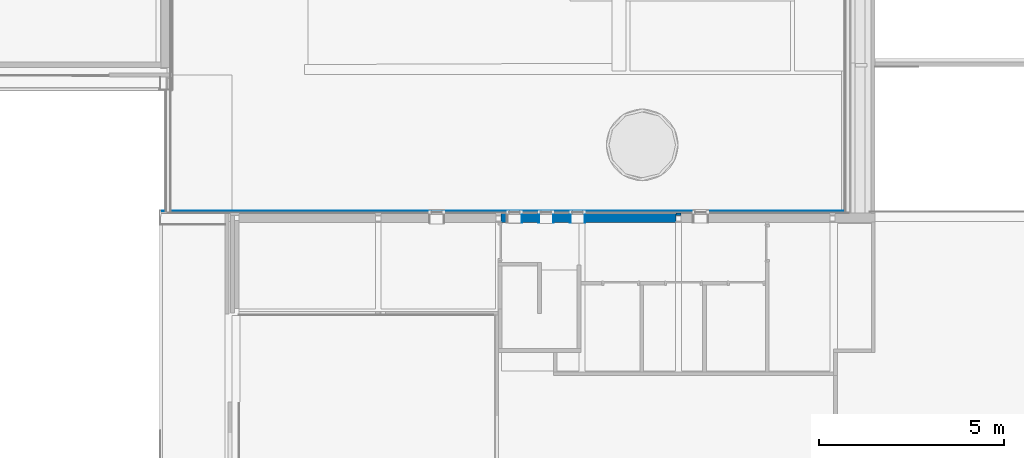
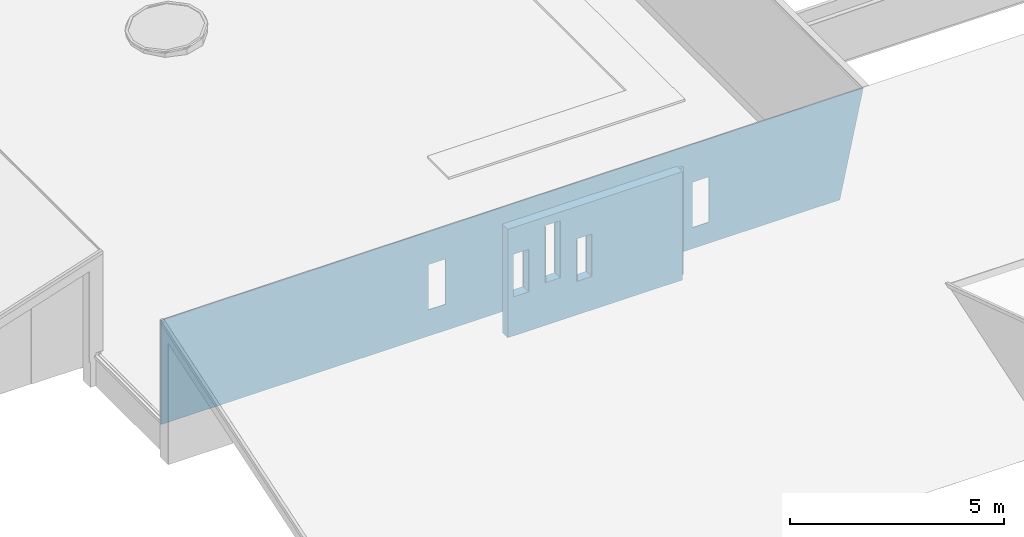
# One storey, part 21 of 66: 8 walls, 8 openings.
"""IFC2X3 building model written with IfcOpenShell, lengths in millimetres."""

from ifc_helpers import new_model, entity, si_unit, converted_unit, derived_unit, direction, frame, frame_2d, origin, place, context, subcontext, project, spatial, rectangle, extrude, clip, halfspace, material, layer, layer_set, layer_usage, type_object, element, save


model = new_model("IFC2X3")

# Units and contexts
model_context = context("Model", 3, precision=0.01, world=origin(), true_north=direction((6.12303176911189e-17, 1.0)))
body_context = subcontext(model_context, "Body", "Model", "MODEL_VIEW")
ifc_project = project(units=[si_unit("LENGTHUNIT", "METRE", prefix="MILLI"), si_unit("AREAUNIT", "SQUARE_METRE"), si_unit("VOLUMEUNIT", "CUBIC_METRE"), converted_unit("PLANEANGLEUNIT", "DEGREE", entity("IfcRatioMeasure", 0.0174532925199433), si_unit("PLANEANGLEUNIT", "RADIAN"), dimensions=[0, 0, 0, 0, 0, 0, 0]), si_unit("MASSUNIT", "GRAM", prefix="KILO"), derived_unit("MASSDENSITYUNIT", [(si_unit("MASSUNIT", "GRAM", prefix="KILO"), 1), (si_unit("LENGTHUNIT", "METRE"), -3)]), derived_unit("MOMENTOFINERTIAUNIT", [(si_unit("LENGTHUNIT", "METRE"), 4)]), si_unit("TIMEUNIT", "SECOND"), si_unit("FREQUENCYUNIT", "HERTZ"), si_unit("THERMODYNAMICTEMPERATUREUNIT", "DEGREE_CELSIUS"), derived_unit("THERMALTRANSMITTANCEUNIT", [(si_unit("MASSUNIT", "GRAM", prefix="KILO"), 1), (si_unit("THERMODYNAMICTEMPERATUREUNIT", "KELVIN"), -1), (si_unit("TIMEUNIT", "SECOND"), -3)]), derived_unit("VOLUMETRICFLOWRATEUNIT", [(si_unit("LENGTHUNIT", "METRE"), 3), (si_unit("TIMEUNIT", "SECOND"), -1)]), si_unit("ELECTRICCURRENTUNIT", "AMPERE"), si_unit("ELECTRICVOLTAGEUNIT", "VOLT"), si_unit("POWERUNIT", "WATT"), si_unit("FORCEUNIT", "NEWTON", prefix="KILO"), si_unit("ILLUMINANCEUNIT", "LUX"), si_unit("LUMINOUSFLUXUNIT", "LUMEN"), si_unit("LUMINOUSINTENSITYUNIT", "CANDELA"), derived_unit("USERDEFINED", [(si_unit("MASSUNIT", "GRAM", prefix="KILO"), -1), (si_unit("LENGTHUNIT", "METRE"), -2), (si_unit("TIMEUNIT", "SECOND"), 3), (si_unit("LUMINOUSFLUXUNIT", "LUMEN"), 1)]), derived_unit("LINEARVELOCITYUNIT", [(si_unit("LENGTHUNIT", "METRE"), 1), (si_unit("TIMEUNIT", "SECOND"), -1)]), si_unit("PRESSUREUNIT", "PASCAL"), derived_unit("USERDEFINED", [(si_unit("LENGTHUNIT", "METRE"), -2), (si_unit("MASSUNIT", "GRAM", prefix="KILO"), 1), (si_unit("TIMEUNIT", "SECOND"), -2)]), derived_unit("LINEARFORCEUNIT", [(si_unit("MASSUNIT", "GRAM", prefix="KILO"), 1), (si_unit("LENGTHUNIT", "METRE"), 1), (si_unit("TIMEUNIT", "SECOND"), -2), (si_unit("LENGTHUNIT", "METRE"), -1)]), derived_unit("PLANARFORCEUNIT", [(si_unit("MASSUNIT", "GRAM", prefix="KILO"), 1), (si_unit("LENGTHUNIT", "METRE"), 1), (si_unit("TIMEUNIT", "SECOND"), -2), (si_unit("LENGTHUNIT", "METRE"), -2)])], contexts=[model_context])

# Site, building, storey
site_placement = place(None, origin())
site = spatial("IfcSite", under=ifc_project, at=site_placement, Name="Default", CompositionType="ELEMENT")
building_placement = place(site_placement, origin())
building = spatial("IfcBuilding", under=site, at=building_placement, Name="-", CompositionType="ELEMENT")
storey_placement = place(building_placement, frame((0.0, 0.0, 3070.0)))
storey = spatial("IfcBuildingStorey", under=building, at=storey_placement, Name="01 eerste verdieping", CompositionType="ELEMENT", Elevation=3070.00000000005)

# Wall, openings
ifc_material_1 = material(Name="AL Houten gevelbekleding staand")
ifc_layer_1 = layer(ifc_material_1, 20.0)
ifc_layer_set_1 = layer_set([ifc_layer_1], Name="Basic Wall:NLRS_42_WA_Houten gevelbekleding staand 20mm")
ifc_layer_usage_1 = layer_usage(ifc_layer_set_1, "AXIS2", "NEGATIVE", 10.0)
wall_type_1 = type_object("IfcWallType", Name="Basic Wall:NLRS_42_WA_Houten gevelbekleding staand 20mm", PredefinedType="STANDARD", material=ifc_layer_set_1)
wall_1_placement = place(storey_placement, frame((9518.49178769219, 10456.1240954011, 557.0)))
wall_1 = element("IfcWallStandardCase", 1, at=wall_1_placement, inside=storey, type_object=wall_type_1, material=ifc_layer_usage_1, Name="Basic Wall:NLRS_42_WA_Houten gevelbekleding staand 20mm", ObjectType="Basic Wall:NLRS_42_WA_Houten gevelbekleding staand 20mm", context=body_context, shape_type="Clipping", body=[
    clip(extrude(rectangle(XDim=18950.1778780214, YDim=19.9999999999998, at=frame_2d((9475.08893901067, 5.95079541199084e-13), x_axis=(-1.0, 0.0))), origin(), (0.0, 0.0, 1.0), 2973.0), halfspace(frame((18950.1778780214, -10.0, 2973.0), z_axis=(0.977989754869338, 0.0, -0.208652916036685), x_axis=(0.0, 1.0, 0.0)), False)),
])
opening_1_placement = place(wall_1_placement, origin())
element("IfcOpeningElement", 2, at=opening_1_placement, cuts=wall_1, Name="Basic Wall:NLRS_42_WA_Houten gevelbekleding staand 20mm", ObjectType="Opening", context=body_context, shape_type="SweptSolid", body=[
    extrude(rectangle(XDim=1289.0, YDim=450.000000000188, at=frame_2d((-2.17426077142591e-12, -2.8421709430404e-13), x_axis=(0.0, 1.0))), frame((7446.50821231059, 10.0, 1393.5), z_axis=(0.0, -1.0, 0.0), x_axis=(-1.0, 0.0, 0.0)), (0.0, 0.0, 1.0), 20.0),
])
opening_2_placement = place(wall_1_placement, origin())
element("IfcOpeningElement", 3, at=opening_2_placement, cuts=wall_1, Name="Basic Wall:NLRS_42_WA_Houten gevelbekleding staand 20mm", ObjectType="Opening", context=body_context, shape_type="SweptSolid", body=[
    extrude(rectangle(XDim=1289.0, YDim=449.99999999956, at=frame_2d((0.0, 0.0), x_axis=(0.0, 1.0))), frame((9543.20304664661, 10.0, 1147.5), z_axis=(0.0, -1.0, 0.0), x_axis=(-1.0, 0.0, 0.0)), (0.0, 0.0, 1.0), 20.0),
])
opening_3_placement = place(wall_1_placement, origin())
element("IfcOpeningElement", 4, at=opening_3_placement, cuts=wall_1, Name="Basic Wall:NLRS_42_WA_Houten gevelbekleding staand 20mm", ObjectType="Opening", context=body_context, shape_type="SweptSolid", body=[
    extrude(rectangle(XDim=1708.0, YDim=449.99999999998, at=frame_2d((2.1600499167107e-12, 5.6843418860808e-13), x_axis=(0.0, 1.0))), frame((10393.2030466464, 10.0, 1457.0), z_axis=(0.0, -1.0, 0.0), x_axis=(-1.0, 0.0, 0.0)), (0.0, 0.0, 1.0), 20.0),
])
opening_4_placement = place(wall_1_placement, origin())
element("IfcOpeningElement", 5, at=opening_4_placement, cuts=wall_1, Name="Basic Wall:NLRS_42_WA_Houten gevelbekleding staand 20mm", ObjectType="Opening", context=body_context, shape_type="SweptSolid", body=[
    extrude(rectangle(XDim=1289.0, YDim=450.000000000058, at=frame_2d((-2.17426077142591e-12, 0.0), x_axis=(0.0, 1.0))), frame((11243.2030466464, 10.0, 987.500000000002), z_axis=(0.0, -1.0, 0.0), x_axis=(-1.0, 0.0, 0.0)), (0.0, 0.0, 1.0), 20.0),
])
opening_5_placement = place(wall_1_placement, origin())
element("IfcOpeningElement", 6, at=opening_5_placement, cuts=wall_1, Name="Basic Wall:NLRS_42_WA_Houten gevelbekleding staand 20mm", ObjectType="Opening", context=body_context, shape_type="SweptSolid", body=[
    extrude(rectangle(XDim=1289.0, YDim=450.000000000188, at=frame_2d((-2.17426077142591e-12, 5.6843418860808e-13), x_axis=(0.0, 1.0))), frame((14561.5082123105, 10.0, 1247.5), z_axis=(0.0, -1.0, 0.0), x_axis=(-1.0, 0.0, 0.0)), (0.0, 0.0, 1.0), 20.0),
])

ifc_material_2 = material(Name="NLRS_i4_hout_multiplex")
ifc_layer_2 = layer(ifc_material_2, 10.0)
ifc_material_3 = material(Name="NLRS_m1_isolatie")
ifc_layer_3 = layer(ifc_material_3, 235.0)
ifc_layer_4 = layer(ifc_material_2, 10.0)
ifc_layer_set_2 = layer_set([ifc_layer_2, ifc_layer_3, ifc_layer_4], Name="Basic Wall:NLRS_21_WA_HSB-wand_268mm (zonder gips)")
ifc_layer_usage_2 = layer_usage(ifc_layer_set_2, "AXIS2", "NEGATIVE", 127.5)
wall_type_2 = type_object("IfcWallType", Name="Basic Wall:NLRS_21_WA_HSB-wand_268mm (zonder gips)", PredefinedType="STANDARD", material=ifc_layer_set_2)
wall_2_placement = place(storey_placement, frame((18702.0128386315, 10274.6240954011, 0.0)))
wall_2 = element("IfcWallStandardCase", 7, at=wall_2_placement, inside=storey, type_object=wall_type_2, material=ifc_layer_usage_2, Name="Basic Wall:NLRS_21_WA_HSB-wand_268mm (zonder gips)", ObjectType="Basic Wall:NLRS_21_WA_HSB-wand_268mm (zonder gips)", context=body_context, shape_type="SweptSolid", body=[
    extrude(rectangle(XDim=4712.1513905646, YDim=254.999999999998, at=frame_2d((2356.0756952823, -1.4210854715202e-13), x_axis=(-1.0, 0.0))), origin(), (0.0, 0.0, 1.0), 3093.29999999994),
])
opening_6_placement = place(wall_2_placement, origin())
element("IfcOpeningElement", 8, at=opening_6_placement, cuts=wall_2, Name="Basic Wall:NLRS_21_WA_HSB-wand_268mm (zonder gips)", ObjectType="Opening", context=body_context, shape_type="SweptSolid", body=[
    extrude(rectangle(XDim=1210.0, YDim=414.000000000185, at=frame_2d((0.0, 1.08002495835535e-12), x_axis=(1.0, 0.0))), frame((359.681995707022, 127.499999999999, 1721.0), z_axis=(0.0, 1.0, 0.0), x_axis=(0.0, 0.0, -1.0)), (0.0, 0.0, -1.0), 255.0),
])
opening_7_placement = place(wall_2_placement, origin())
element("IfcOpeningElement", 9, at=opening_7_placement, cuts=wall_2, Name="Basic Wall:NLRS_21_WA_HSB-wand_268mm (zonder gips)", ObjectType="Opening", context=body_context, shape_type="SweptSolid", body=[
    extrude(rectangle(XDim=1629.0, YDim=414.000000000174, at=frame_2d((5.6843418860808e-13, 0.0), x_axis=(1.0, 0.0))), frame((1209.681995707, 127.499999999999, 2030.5), z_axis=(0.0, -1.0, 0.0), x_axis=(0.0, 0.0, -1.0)), (0.0, 0.0, 1.0), 255.0),
])
opening_8_placement = place(wall_2_placement, origin())
element("IfcOpeningElement", 10, at=opening_8_placement, cuts=wall_2, Name="Basic Wall:NLRS_21_WA_HSB-wand_268mm (zonder gips)", ObjectType="Opening", context=body_context, shape_type="SweptSolid", body=[
    extrude(rectangle(XDim=1209.9999999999, YDim=414.000000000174, at=frame_2d((2.27373675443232e-13, 0.0), x_axis=(1.0, 0.0))), frame((2059.68199570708, 127.499999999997, 1561.0), z_axis=(0.0, -1.0, 0.0), x_axis=(0.0, 0.0, -1.0)), (0.0, 0.0, 1.0), 255.0),
])

# Walls
ifc_material_4 = material(Name="NLRS_n7_isolatie PIR_gen")
ifc_layer_5 = layer(ifc_material_4, 60.0)
ifc_layer_set_3 = layer_set([ifc_layer_5], Name="Basic Wall:NLRS_22_WA_LB_isolatie PIR 60mm")
ifc_layer_usage_3 = layer_usage(ifc_layer_set_3, "AXIS2", "NEGATIVE", 30.0)
wall_type_3 = type_object("IfcWallType", Name="Basic Wall:NLRS_22_WA_LB_isolatie PIR 60mm", PredefinedType="STANDARD", material=ifc_layer_set_3)
wall_3_placement = place(storey_placement, frame((23414.1642291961, 10370.728362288, 0.0)))
element("IfcWallStandardCase", 11, at=wall_3_placement, inside=storey, type_object=wall_type_3, material=ifc_layer_usage_3, Name="Basic Wall:NLRS_22_WA_LB_isolatie PIR 60mm", ObjectType="Basic Wall:NLRS_22_WA_LB_isolatie PIR 60mm", context=body_context, shape_type="SweptSolid", body=[
    extrude(rectangle(XDim=140.000000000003, YDim=59.9999999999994, at=frame_2d((70.0000000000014, 2.57571741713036e-13), x_axis=(-1.0, 0.0))), origin(), (0.0, 0.0, 1.0), 3045.0),
])
ifc_material_5 = material(Name="AL_Multiplex RAL 9002")
ifc_layer_6 = layer(ifc_material_5, 18.0)
ifc_layer_set_4 = layer_set([ifc_layer_6], Name="Basic Wall:NLRS_41_WA_plaatmateriaal 18mm RAL 9002")
ifc_layer_usage_4 = layer_usage(ifc_layer_set_4, "AXIS2", "NEGATIVE", 9.0)
wall_type_4 = type_object("IfcWallType", Name="Basic Wall:NLRS_41_WA_plaatmateriaal 18mm RAL 9002", PredefinedType="STANDARD", material=ifc_layer_set_4)
wall_4_placement = place(storey_placement, frame((19259.6948343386, 10357.1240954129, 1134.0), z_axis=(0.0, 0.0, 1.0), x_axis=(0.0, -1.0, 0.0)))
element("IfcWallStandardCase", 12, at=wall_4_placement, inside=storey, type_object=wall_type_4, material=ifc_layer_usage_4, Name="Basic Wall:NLRS_41_WA_plaatmateriaal 18mm RAL 9002", ObjectType="Basic Wall:NLRS_41_WA_plaatmateriaal 18mm RAL 9002", context=body_context, shape_type="SweptSolid", body=[
    extrude(rectangle(XDim=219.999999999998, YDim=18.0000000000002, at=frame_2d((109.999999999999, -4.69846384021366e-13), x_axis=(-1.0, 0.0))), origin(), (0.0, 0.0, 1.0), 1174.0),
])
ifc_layer_usage_5 = layer_usage(ifc_layer_set_4, "AXIS2", "NEGATIVE", 9.0)
wall_5_placement = place(storey_placement, frame((19713.6948343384, 10357.1240954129, 1234.0), z_axis=(0.0, 0.0, 1.0), x_axis=(0.0, -1.0, 0.0)))
element("IfcWallStandardCase", 13, at=wall_5_placement, inside=storey, type_object=wall_type_4, material=ifc_layer_usage_5, Name="Basic Wall:NLRS_41_WA_plaatmateriaal 18mm RAL 9002", ObjectType="Basic Wall:NLRS_41_WA_plaatmateriaal 18mm RAL 9002", context=body_context, shape_type="SweptSolid", body=[
    extrude(rectangle(XDim=220.0, YDim=17.9999999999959, at=frame_2d((110.0, 6.12843109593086e-13), x_axis=(-1.0, 0.0))), origin(), (0.0, 0.0, 1.0), 1593.0),
])
ifc_layer_usage_6 = layer_usage(ifc_layer_set_4, "AXIS2", "NEGATIVE", 9.0)
wall_6_placement = place(storey_placement, frame((20109.6948343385, 10357.1240954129, 1234.0), z_axis=(0.0, 0.0, 1.0), x_axis=(0.0, -1.0, 0.0)))
element("IfcWallStandardCase", 14, at=wall_6_placement, inside=storey, type_object=wall_type_4, material=ifc_layer_usage_6, Name="Basic Wall:NLRS_41_WA_plaatmateriaal 18mm RAL 9002", ObjectType="Basic Wall:NLRS_41_WA_plaatmateriaal 18mm RAL 9002", context=body_context, shape_type="SweptSolid", body=[
    extrude(rectangle(XDim=220.0, YDim=17.9999999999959, at=frame_2d((110.0, 6.12843109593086e-13), x_axis=(-1.0, 0.0))), origin(), (0.0, 0.0, 1.0), 1593.0),
])
ifc_layer_usage_7 = layer_usage(ifc_layer_set_4, "AXIS2", "NEGATIVE", 9.0)
wall_7_placement = place(storey_placement, frame((20563.6948343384, 10357.1240954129, 974.0), z_axis=(0.0, 0.0, 1.0), x_axis=(0.0, -1.0, 0.0)))
element("IfcWallStandardCase", 15, at=wall_7_placement, inside=storey, type_object=wall_type_4, material=ifc_layer_usage_7, Name="Basic Wall:NLRS_41_WA_plaatmateriaal 18mm RAL 9002", ObjectType="Basic Wall:NLRS_41_WA_plaatmateriaal 18mm RAL 9002", context=body_context, shape_type="SweptSolid", body=[
    extrude(rectangle(XDim=220.0, YDim=17.9999999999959, at=frame_2d((110.0, 6.12843109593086e-13), x_axis=(-1.0, 0.0))), origin(), (0.0, 0.0, 1.0), 1176.9999999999),
])
ifc_layer_usage_8 = layer_usage(ifc_layer_set_4, "AXIS2", "NEGATIVE", 9.0)
wall_8_placement = place(storey_placement, frame((20959.6948343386, 10357.1240954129, 974.0), z_axis=(0.0, 0.0, 1.0), x_axis=(0.0, -1.0, 0.0)))
element("IfcWallStandardCase", 16, at=wall_8_placement, inside=storey, type_object=wall_type_4, material=ifc_layer_usage_8, Name="Basic Wall:NLRS_41_WA_plaatmateriaal 18mm RAL 9002", ObjectType="Basic Wall:NLRS_41_WA_plaatmateriaal 18mm RAL 9002", context=body_context, shape_type="SweptSolid", body=[
    extrude(rectangle(XDim=219.999999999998, YDim=17.9999999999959, at=frame_2d((109.999999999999, 6.12843109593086e-13), x_axis=(-1.0, 0.0))), origin(), (0.0, 0.0, 1.0), 1176.9999999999),
])

save(model, "model.ifc")
